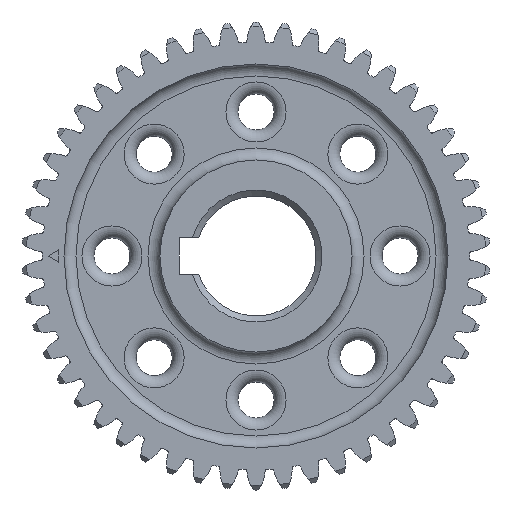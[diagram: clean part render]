
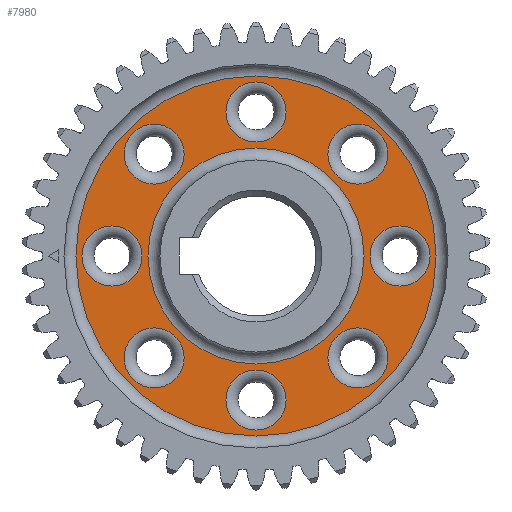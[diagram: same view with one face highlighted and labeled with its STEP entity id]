
A CAD part, left-side view. The second image highlights one B-rep face of the part: STEP entity #7980.
In plain terms, the highlighted planar face has unit normal (-1, 0, 0).
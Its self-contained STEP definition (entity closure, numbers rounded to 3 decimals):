
#215=FACE_BOUND('',#1932,.T.);
#216=FACE_BOUND('',#1933,.T.);
#217=FACE_BOUND('',#1934,.T.);
#218=FACE_BOUND('',#1935,.T.);
#219=FACE_BOUND('',#1936,.T.);
#220=FACE_BOUND('',#1937,.T.);
#221=FACE_BOUND('',#1938,.T.);
#222=FACE_BOUND('',#1939,.T.);
#223=FACE_BOUND('',#1940,.T.);
#576=CIRCLE('',#8458,5.);
#582=CIRCLE('',#8466,30.);
#583=CIRCLE('',#8467,5.);
#584=CIRCLE('',#8468,5.);
#585=CIRCLE('',#8469,5.);
#586=CIRCLE('',#8470,5.);
#587=CIRCLE('',#8471,18.);
#588=CIRCLE('',#8472,5.);
#589=CIRCLE('',#8473,5.);
#590=CIRCLE('',#8474,5.);
#1479=FACE_OUTER_BOUND('',#1931,.T.);
#1931=EDGE_LOOP('',(#5353));
#1932=EDGE_LOOP('',(#5354));
#1933=EDGE_LOOP('',(#5355));
#1934=EDGE_LOOP('',(#5356));
#1935=EDGE_LOOP('',(#5357));
#1936=EDGE_LOOP('',(#5358));
#1937=EDGE_LOOP('',(#5359));
#1938=EDGE_LOOP('',(#5360));
#1939=EDGE_LOOP('',(#5361));
#1940=EDGE_LOOP('',(#5362));
#3096=VERTEX_POINT('',#12577);
#3101=VERTEX_POINT('',#12591);
#3102=VERTEX_POINT('',#12593);
#3103=VERTEX_POINT('',#12595);
#3104=VERTEX_POINT('',#12597);
#3105=VERTEX_POINT('',#12599);
#3106=VERTEX_POINT('',#12601);
#3107=VERTEX_POINT('',#12603);
#3108=VERTEX_POINT('',#12605);
#3109=VERTEX_POINT('',#12607);
#3992=EDGE_CURVE('',#3096,#3096,#576,.T.);
#3999=EDGE_CURVE('',#3101,#3101,#582,.T.);
#4000=EDGE_CURVE('',#3102,#3102,#583,.T.);
#4001=EDGE_CURVE('',#3103,#3103,#584,.T.);
#4002=EDGE_CURVE('',#3104,#3104,#585,.T.);
#4003=EDGE_CURVE('',#3105,#3105,#586,.T.);
#4004=EDGE_CURVE('',#3106,#3106,#587,.T.);
#4005=EDGE_CURVE('',#3107,#3107,#588,.T.);
#4006=EDGE_CURVE('',#3108,#3108,#589,.T.);
#4007=EDGE_CURVE('',#3109,#3109,#590,.T.);
#5353=ORIENTED_EDGE('',*,*,#3999,.F.);
#5354=ORIENTED_EDGE('',*,*,#4000,.F.);
#5355=ORIENTED_EDGE('',*,*,#4001,.F.);
#5356=ORIENTED_EDGE('',*,*,#4002,.F.);
#5357=ORIENTED_EDGE('',*,*,#4003,.F.);
#5358=ORIENTED_EDGE('',*,*,#4004,.F.);
#5359=ORIENTED_EDGE('',*,*,#4005,.F.);
#5360=ORIENTED_EDGE('',*,*,#4006,.F.);
#5361=ORIENTED_EDGE('',*,*,#4007,.F.);
#5362=ORIENTED_EDGE('',*,*,#3992,.F.);
#7958=PLANE('',#8465);
#7980=ADVANCED_FACE('',(#1479,#215,#216,#217,#218,#219,#220,#221,#222,#223),
#7958,.F.);
#8458=AXIS2_PLACEMENT_3D('',#12578,#9742,#9743);
#8465=AXIS2_PLACEMENT_3D('',#12590,#9757,#9758);
#8466=AXIS2_PLACEMENT_3D('',#12592,#9759,#9760);
#8467=AXIS2_PLACEMENT_3D('',#12594,#9761,#9762);
#8468=AXIS2_PLACEMENT_3D('',#12596,#9763,#9764);
#8469=AXIS2_PLACEMENT_3D('',#12598,#9765,#9766);
#8470=AXIS2_PLACEMENT_3D('',#12600,#9767,#9768);
#8471=AXIS2_PLACEMENT_3D('',#12602,#9769,#9770);
#8472=AXIS2_PLACEMENT_3D('',#12604,#9771,#9772);
#8473=AXIS2_PLACEMENT_3D('',#12606,#9773,#9774);
#8474=AXIS2_PLACEMENT_3D('',#12608,#9775,#9776);
#9742=DIRECTION('center_axis',(-1.,0.,0.));
#9743=DIRECTION('ref_axis',(0.,-0.707,-0.707));
#9757=DIRECTION('center_axis',(1.,0.,0.));
#9758=DIRECTION('ref_axis',(0.,0.,-1.));
#9759=DIRECTION('center_axis',(1.,0.,0.));
#9760=DIRECTION('ref_axis',(0.,0.,1.));
#9761=DIRECTION('center_axis',(-1.,0.,0.));
#9762=DIRECTION('ref_axis',(0.,-1.,0.));
#9763=DIRECTION('center_axis',(-1.,0.,0.));
#9764=DIRECTION('ref_axis',(0.,0.,1.));
#9765=DIRECTION('center_axis',(-1.,0.,0.));
#9766=DIRECTION('ref_axis',(0.,1.,0.));
#9767=DIRECTION('center_axis',(-1.,0.,0.));
#9768=DIRECTION('ref_axis',(0.,0.,-1.));
#9769=DIRECTION('center_axis',(-1.,0.,0.));
#9770=DIRECTION('ref_axis',(0.,0.,1.));
#9771=DIRECTION('center_axis',(-1.,0.,0.));
#9772=DIRECTION('ref_axis',(0.,0.707,-0.707));
#9773=DIRECTION('center_axis',(-1.,0.,0.));
#9774=DIRECTION('ref_axis',(0.,0.707,0.707));
#9775=DIRECTION('center_axis',(-1.,0.,0.));
#9776=DIRECTION('ref_axis',(0.,-0.707,0.707));
#12577=CARTESIAN_POINT('',(-4.,16.971,-11.971));
#12578=CARTESIAN_POINT('Origin',(-4.,16.971,-16.971));
#12590=CARTESIAN_POINT('Origin',(-4.,0.,0.));
#12591=CARTESIAN_POINT('',(-4.,0.,-30.));
#12592=CARTESIAN_POINT('Origin',(-4.,0.,0.));
#12593=CARTESIAN_POINT('',(-4.,0.,-19.));
#12594=CARTESIAN_POINT('Origin',(-4.,0.,-24.));
#12595=CARTESIAN_POINT('',(-4.,-24.,5.));
#12596=CARTESIAN_POINT('Origin',(-4.,-24.,0.));
#12597=CARTESIAN_POINT('',(-4.,0.,29.));
#12598=CARTESIAN_POINT('Origin',(-4.,0.,24.));
#12599=CARTESIAN_POINT('',(-4.,24.,5.));
#12600=CARTESIAN_POINT('Origin',(-4.,24.,0.));
#12601=CARTESIAN_POINT('',(-4.,0.,18.));
#12602=CARTESIAN_POINT('Origin',(-4.,0.,0.));
#12603=CARTESIAN_POINT('',(-4.,16.971,21.971));
#12604=CARTESIAN_POINT('Origin',(-4.,16.971,16.971));
#12605=CARTESIAN_POINT('',(-4.,-16.971,21.971));
#12606=CARTESIAN_POINT('Origin',(-4.,-16.971,16.971));
#12607=CARTESIAN_POINT('',(-4.,-16.971,-11.971));
#12608=CARTESIAN_POINT('Origin',(-4.,-16.971,-16.971));
